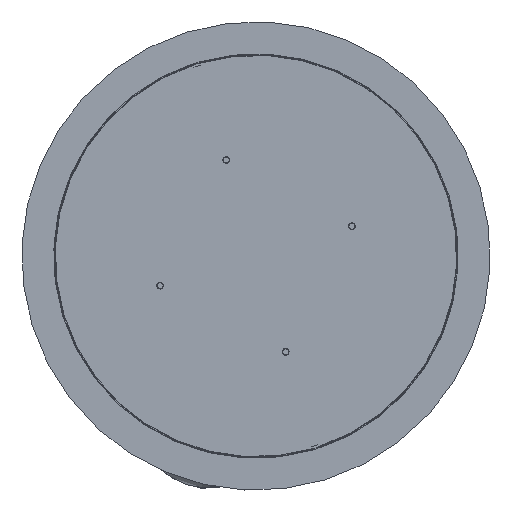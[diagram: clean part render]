
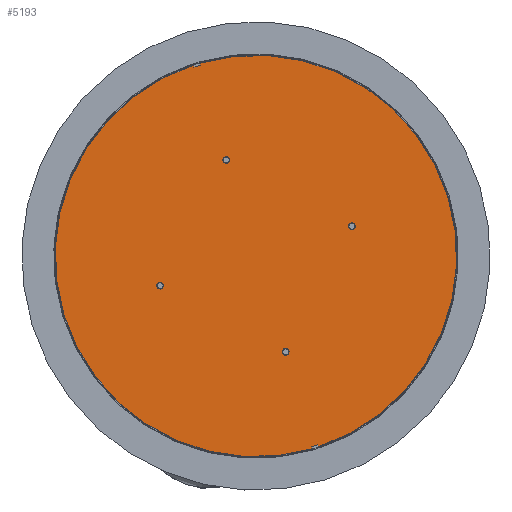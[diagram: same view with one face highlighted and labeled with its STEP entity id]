
A CAD part, top view. The second image highlights one B-rep face of the part: STEP entity #5193.
In plain terms, the highlighted planar face has unit normal (0, 0, 1).
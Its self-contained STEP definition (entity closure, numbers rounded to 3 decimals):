
#425=FACE_BOUND('',#1164,.T.);
#426=FACE_BOUND('',#1165,.T.);
#427=FACE_BOUND('',#1166,.T.);
#428=FACE_BOUND('',#1167,.T.);
#748=FACE_OUTER_BOUND('',#1163,.T.);
#1163=EDGE_LOOP('',(#3557,#3558,#3559,#3560,#3561,#3562,#3563,#3564));
#1164=EDGE_LOOP('',(#3565));
#1165=EDGE_LOOP('',(#3566));
#1166=EDGE_LOOP('',(#3567));
#1167=EDGE_LOOP('',(#3568));
#1901=LINE('',#8135,#1945);
#1902=LINE('',#8137,#1946);
#1903=LINE('',#8139,#1947);
#1904=LINE('',#8143,#1948);
#1905=LINE('',#8145,#1949);
#1906=LINE('',#8146,#1950);
#1945=VECTOR('',#6445,2.931);
#1946=VECTOR('',#6446,10.);
#1947=VECTOR('',#6447,2.931);
#1948=VECTOR('',#6450,2.931);
#1949=VECTOR('',#6451,10.);
#1950=VECTOR('',#6452,2.931);
#1989=CIRCLE('',#5618,299.889);
#1990=CIRCLE('',#5619,300.);
#1991=CIRCLE('',#5620,5.);
#1992=CIRCLE('',#5621,5.);
#1993=CIRCLE('',#5622,5.);
#1994=CIRCLE('',#5623,5.);
#2457=VERTEX_POINT('',#8131);
#2458=VERTEX_POINT('',#8132);
#2459=VERTEX_POINT('',#8134);
#2460=VERTEX_POINT('',#8136);
#2461=VERTEX_POINT('',#8138);
#2462=VERTEX_POINT('',#8140);
#2463=VERTEX_POINT('',#8142);
#2464=VERTEX_POINT('',#8144);
#2465=VERTEX_POINT('',#8147);
#2466=VERTEX_POINT('',#8149);
#2467=VERTEX_POINT('',#8151);
#2468=VERTEX_POINT('',#8153);
#2966=EDGE_CURVE('',#2457,#2458,#1989,.T.);
#2967=EDGE_CURVE('',#2458,#2459,#1901,.T.);
#2968=EDGE_CURVE('',#2459,#2460,#1902,.T.);
#2969=EDGE_CURVE('',#2460,#2461,#1903,.T.);
#2970=EDGE_CURVE('',#2461,#2462,#1990,.T.);
#2971=EDGE_CURVE('',#2462,#2463,#1904,.T.);
#2972=EDGE_CURVE('',#2463,#2464,#1905,.T.);
#2973=EDGE_CURVE('',#2464,#2457,#1906,.T.);
#2974=EDGE_CURVE('',#2465,#2465,#1991,.T.);
#2975=EDGE_CURVE('',#2466,#2466,#1992,.T.);
#2976=EDGE_CURVE('',#2467,#2467,#1993,.T.);
#2977=EDGE_CURVE('',#2468,#2468,#1994,.T.);
#3557=ORIENTED_EDGE('',*,*,#2966,.T.);
#3558=ORIENTED_EDGE('',*,*,#2967,.T.);
#3559=ORIENTED_EDGE('',*,*,#2968,.T.);
#3560=ORIENTED_EDGE('',*,*,#2969,.T.);
#3561=ORIENTED_EDGE('',*,*,#2970,.T.);
#3562=ORIENTED_EDGE('',*,*,#2971,.T.);
#3563=ORIENTED_EDGE('',*,*,#2972,.T.);
#3564=ORIENTED_EDGE('',*,*,#2973,.T.);
#3565=ORIENTED_EDGE('',*,*,#2974,.F.);
#3566=ORIENTED_EDGE('',*,*,#2975,.F.);
#3567=ORIENTED_EDGE('',*,*,#2976,.F.);
#3568=ORIENTED_EDGE('',*,*,#2977,.F.);
#4739=PLANE('',#5617);
#5193=ADVANCED_FACE('',(#748,#425,#426,#427,#428),#4739,.T.);
#5617=AXIS2_PLACEMENT_3D('',#8130,#6441,#6442);
#5618=AXIS2_PLACEMENT_3D('',#8133,#6443,#6444);
#5619=AXIS2_PLACEMENT_3D('',#8141,#6448,#6449);
#5620=AXIS2_PLACEMENT_3D('',#8148,#6453,#6454);
#5621=AXIS2_PLACEMENT_3D('',#8150,#6455,#6456);
#5622=AXIS2_PLACEMENT_3D('',#8152,#6457,#6458);
#5623=AXIS2_PLACEMENT_3D('',#8154,#6459,#6460);
#6441=DIRECTION('center_axis',(0.,0.,
1.));
#6442=DIRECTION('ref_axis',(0.296,-0.955,0.));
#6443=DIRECTION('center_axis',(0.,0.,
1.));
#6444=DIRECTION('ref_axis',(0.312,-0.95,0.));
#6445=DIRECTION('',(0.285,-0.959,0.));
#6446=DIRECTION('',(-0.959,-0.285,0.));
#6447=DIRECTION('',(-0.285,0.959,0.));
#6448=DIRECTION('center_axis',(0.,0.,
1.));
#6449=DIRECTION('ref_axis',(-0.312,0.95,0.));
#6450=DIRECTION('',(-0.307,0.952,0.));
#6451=DIRECTION('',(0.952,0.307,0.));
#6452=DIRECTION('',(0.307,-0.952,0.));
#6453=DIRECTION('center_axis',(0.,0.,
1.));
#6454=DIRECTION('ref_axis',(0.013,-1.,0.));
#6455=DIRECTION('center_axis',(0.,0.,
1.));
#6456=DIRECTION('ref_axis',(-0.013,1.,0.));
#6457=DIRECTION('center_axis',(0.,0.,
1.));
#6458=DIRECTION('ref_axis',(-1.,-0.013,0.));
#6459=DIRECTION('center_axis',(0.,0.,
1.));
#6460=DIRECTION('ref_axis',(1.,0.013,0.));
#8130=CARTESIAN_POINT('Origin',(-682.708,311.671,-72.995));
#8131=CARTESIAN_POINT('',(-589.14,26.752,-72.995));
#8132=CARTESIAN_POINT('',(-766.546,599.604,-72.995));
#8133=CARTESIAN_POINT('Origin',(-682.65,311.689,-72.995));
#8134=CARTESIAN_POINT('',(-765.711,596.795,-72.995));
#8135=CARTESIAN_POINT('',(-766.546,599.604,-72.995));
#8136=CARTESIAN_POINT('',(-775.296,593.944,-72.995));
#8137=CARTESIAN_POINT('',(-765.711,596.795,-72.995));
#8138=CARTESIAN_POINT('',(-776.131,596.753,-72.995));
#8139=CARTESIAN_POINT('',(-775.296,593.944,-72.995));
#8140=CARTESIAN_POINT('',(-598.658,23.687,-72.995));
#8141=CARTESIAN_POINT('Origin',(-682.65,311.689,-72.995));
#8142=CARTESIAN_POINT('',(-599.557,26.476,-72.995));
#8143=CARTESIAN_POINT('',(-598.658,23.687,-72.995));
#8144=CARTESIAN_POINT('',(-590.038,29.542,-72.995));
#8145=CARTESIAN_POINT('',(-599.557,26.476,-72.995));
#8146=CARTESIAN_POINT('',(-590.038,29.542,-72.995));
#8147=CARTESIAN_POINT('',(-826.019,272.309,-72.995));
#8148=CARTESIAN_POINT('Origin',(-825.954,267.309,-72.995));
#8149=CARTESIAN_POINT('',(-539.282,351.069,-72.995));
#8150=CARTESIAN_POINT('Origin',(-539.346,356.069,-72.995));
#8151=CARTESIAN_POINT('',(-722.031,455.058,-72.995));
#8152=CARTESIAN_POINT('Origin',(-727.03,454.993,-72.995));
#8153=CARTESIAN_POINT('',(-643.27,168.32,-72.995));
#8154=CARTESIAN_POINT('Origin',(-638.27,168.385,-72.995));
